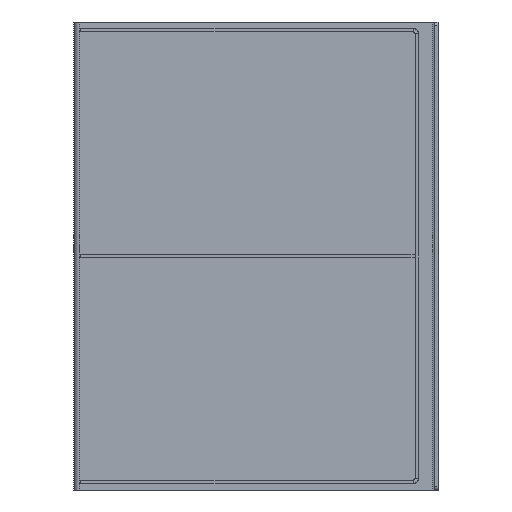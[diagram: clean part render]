
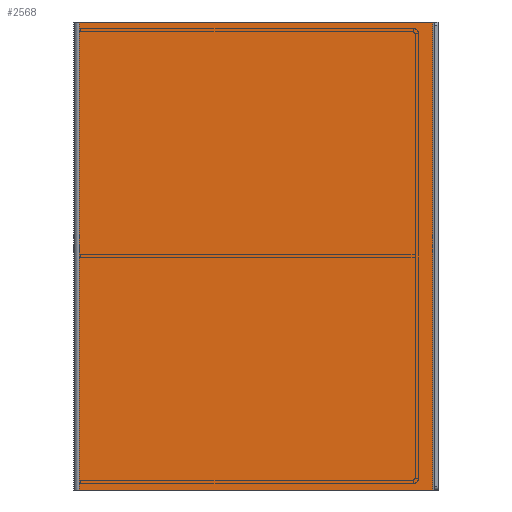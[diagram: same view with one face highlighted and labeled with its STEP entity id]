
A CAD part, left-side view. The second image highlights one B-rep face of the part: STEP entity #2568.
In plain terms, the highlighted planar face has unit normal (-1, 0, 0).
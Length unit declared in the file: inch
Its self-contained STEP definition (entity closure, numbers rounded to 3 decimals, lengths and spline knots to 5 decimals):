
#35 = LINE ( 'NONE', #2482, #2858 ) ;
#62 = FACE_OUTER_BOUND ( 'NONE', #2458, .T. ) ;
#799 = LINE ( 'NONE', #4773, #3623 ) ;
#805 = CARTESIAN_POINT ( 'NONE',  ( -18.125, 0., 18. ) ) ;
#829 = DIRECTION ( 'NONE',  ( -1., 0., 0. ) ) ;
#964 = CARTESIAN_POINT ( 'NONE',  ( -18.125, -13.803, 18. ) ) ;
#965 = EDGE_CURVE ( 'NONE', #4455, #5902, #35, .T. ) ;
#1054 = LINE ( 'NONE', #4411, #3910 ) ;
#1298 = LINE ( 'NONE', #964, #2556 ) ;
#1564 = DIRECTION ( 'NONE',  ( 0., 1., 0. ) ) ;
#1792 = DIRECTION ( 'NONE',  ( 0., 0., 1. ) ) ;
#1887 = CARTESIAN_POINT ( 'NONE',  ( -18.125, -13.803, 18. ) ) ;
#2114 = ORIENTED_EDGE ( 'NONE', *, *, #965, .T. ) ;
#2458 = EDGE_LOOP ( 'NONE', ( #6646, #5198, #2114, #2584 ) ) ;
#2463 = CARTESIAN_POINT ( 'NONE',  ( -18.125, -0.197, 18. ) ) ;
#2482 = CARTESIAN_POINT ( 'NONE',  ( -18.125, 0., 18. ) ) ;
#2556 = VECTOR ( 'NONE', #2638, 39.37008 ) ;
#2568 = ADVANCED_FACE ( 'NONE', ( #62 ), #6765, .T. ) ;
#2584 = ORIENTED_EDGE ( 'NONE', *, *, #3326, .T. ) ;
#2593 = DIRECTION ( 'NONE',  ( 0., 1., 0. ) ) ;
#2632 = VERTEX_POINT ( 'NONE', #6090 ) ;
#2638 = DIRECTION ( 'NONE',  ( 0., 0., -1. ) ) ;
#2858 = VECTOR ( 'NONE', #2593, 39.37008 ) ;
#3092 = EDGE_CURVE ( 'NONE', #4455, #3096, #1298, .T. ) ;
#3096 = VERTEX_POINT ( 'NONE', #4243 ) ;
#3326 = EDGE_CURVE ( 'NONE', #5902, #2632, #1054, .T. ) ;
#3623 = VECTOR ( 'NONE', #1564, 39.37008 ) ;
#3910 = VECTOR ( 'NONE', #5777, 39.37008 ) ;
#4243 = CARTESIAN_POINT ( 'NONE',  ( -18.125, -13.803, 0. ) ) ;
#4411 = CARTESIAN_POINT ( 'NONE',  ( -18.125, -0.197, 18. ) ) ;
#4455 = VERTEX_POINT ( 'NONE', #1887 ) ;
#4773 = CARTESIAN_POINT ( 'NONE',  ( -18.125, 0., 0. ) ) ;
#5177 = EDGE_CURVE ( 'NONE', #3096, #2632, #799, .T. ) ;
#5198 = ORIENTED_EDGE ( 'NONE', *, *, #3092, .F. ) ;
#5777 = DIRECTION ( 'NONE',  ( 0., 0., -1. ) ) ;
#5902 = VERTEX_POINT ( 'NONE', #2463 ) ;
#6090 = CARTESIAN_POINT ( 'NONE',  ( -18.125, -0.197, 0. ) ) ;
#6131 = AXIS2_PLACEMENT_3D ( 'NONE', #805, #829, #1792 ) ;
#6646 = ORIENTED_EDGE ( 'NONE', *, *, #5177, .F. ) ;
#6765 = PLANE ( 'NONE',  #6131 ) ;
